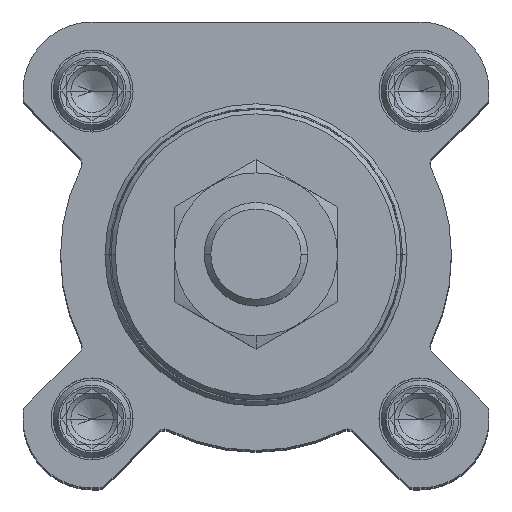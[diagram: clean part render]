
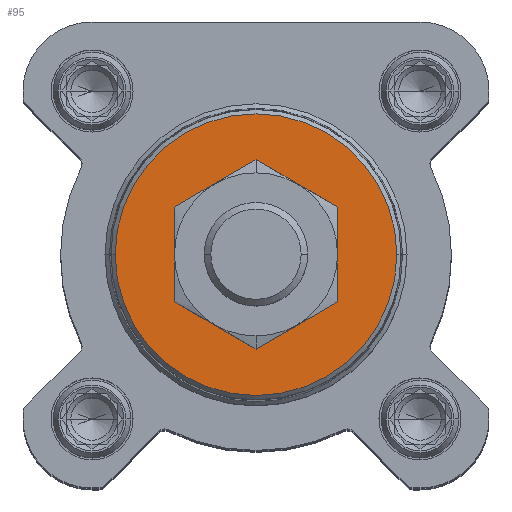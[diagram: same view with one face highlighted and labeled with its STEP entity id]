
A CAD part, top view. The second image highlights one B-rep face of the part: STEP entity #95.
In plain terms, the highlighted planar face has unit normal (0, 0, 1).
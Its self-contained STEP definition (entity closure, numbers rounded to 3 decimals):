
#90 = CIRCLE ( 'NONE', #11195, 8. ) ;
#95 = ADVANCED_FACE ( 'NONE', ( #17831, #14646 ), #11559, .F. ) ;
#518 = AXIS2_PLACEMENT_3D ( 'NONE', #1026, #16336, #7198 ) ;
#1026 = CARTESIAN_POINT ( 'NONE',  ( 0., 0., 21.3 ) ) ;
#1356 = CARTESIAN_POINT ( 'NONE',  ( -16.32, 0., 21.3 ) ) ;
#1769 = VERTEX_POINT ( 'NONE', #10551 ) ;
#3025 = EDGE_LOOP ( 'NONE', ( #11599, #6880 ) ) ;
#3616 = DIRECTION ( 'NONE',  ( 0., 0., -1. ) ) ;
#4615 = VERTEX_POINT ( 'NONE', #13260 ) ;
#4755 = CIRCLE ( 'NONE', #19676, 16.32 ) ;
#5718 = AXIS2_PLACEMENT_3D ( 'NONE', #5994, #15041, #18028 ) ;
#5994 = CARTESIAN_POINT ( 'NONE',  ( 0., 0., 21.3 ) ) ;
#6008 = CIRCLE ( 'NONE', #15881, 8. ) ;
#6880 = ORIENTED_EDGE ( 'NONE', *, *, #17471, .F. ) ;
#7198 = DIRECTION ( 'NONE',  ( 0., -1., 0. ) ) ;
#7412 = DIRECTION ( 'NONE',  ( 0., 0., -1. ) ) ;
#7752 = ORIENTED_EDGE ( 'NONE', *, *, #13096, .T. ) ;
#7920 = VERTEX_POINT ( 'NONE', #8560 ) ;
#8312 = CARTESIAN_POINT ( 'NONE',  ( 0., 0., 21.3 ) ) ;
#8560 = CARTESIAN_POINT ( 'NONE',  ( -8., 0., 21.3 ) ) ;
#9206 = DIRECTION ( 'NONE',  ( -1., 0., 0. ) ) ;
#10113 = EDGE_LOOP ( 'NONE', ( #7752, #15733 ) ) ;
#10551 = CARTESIAN_POINT ( 'NONE',  ( 8., 0., 21.3 ) ) ;
#11195 = AXIS2_PLACEMENT_3D ( 'NONE', #8312, #3616, #11476 ) ;
#11397 = DIRECTION ( 'NONE',  ( 0., 0., -1. ) ) ;
#11476 = DIRECTION ( 'NONE',  ( -1., 0., 0. ) ) ;
#11559 = PLANE ( 'NONE',  #518 ) ;
#11599 = ORIENTED_EDGE ( 'NONE', *, *, #17950, .F. ) ;
#13096 = EDGE_CURVE ( 'NONE', #7920, #1769, #90, .T. ) ;
#13260 = CARTESIAN_POINT ( 'NONE',  ( 16.32, 0., 21.3 ) ) ;
#13334 = CIRCLE ( 'NONE', #5718, 16.32 ) ;
#14051 = VERTEX_POINT ( 'NONE', #1356 ) ;
#14473 = DIRECTION ( 'NONE',  ( -1., 0., 0. ) ) ;
#14646 = FACE_BOUND ( 'NONE', #10113, .T. ) ;
#15041 = DIRECTION ( 'NONE',  ( 0., 0., -1. ) ) ;
#15263 = CARTESIAN_POINT ( 'NONE',  ( 0., 0., 21.3 ) ) ;
#15733 = ORIENTED_EDGE ( 'NONE', *, *, #18662, .T. ) ;
#15881 = AXIS2_PLACEMENT_3D ( 'NONE', #15263, #7412, #9206 ) ;
#16336 = DIRECTION ( 'NONE',  ( 0., 0., -1. ) ) ;
#17471 = EDGE_CURVE ( 'NONE', #4615, #14051, #4755, .T. ) ;
#17658 = CARTESIAN_POINT ( 'NONE',  ( 0., 0., 21.3 ) ) ;
#17831 = FACE_OUTER_BOUND ( 'NONE', #3025, .T. ) ;
#17950 = EDGE_CURVE ( 'NONE', #14051, #4615, #13334, .T. ) ;
#18028 = DIRECTION ( 'NONE',  ( -1., 0., 0. ) ) ;
#18662 = EDGE_CURVE ( 'NONE', #1769, #7920, #6008, .T. ) ;
#19676 = AXIS2_PLACEMENT_3D ( 'NONE', #17658, #11397, #14473 ) ;
